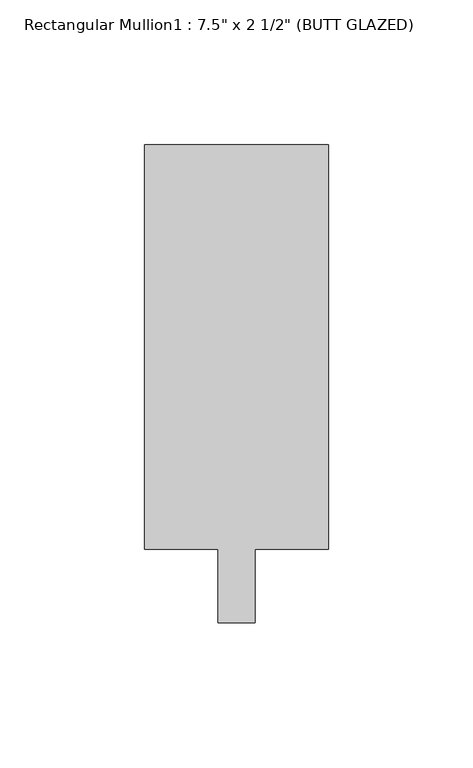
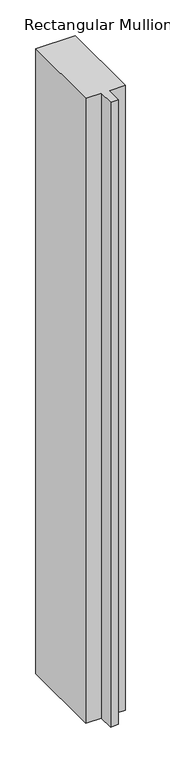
"""IFC4 building model written with IfcOpenShell, lengths in millimetres: member geometry."""

import ifcopenshell
import ifcopenshell.guid

model = None  # the IFC model being written
_history = None  # IfcOwnerHistory: only IFC2X3 demands one
_inside = {}  # id of a spatial element -> (the spatial element, [elements in it])
_under = {}  # id of a project, library or spatial element -> (it, [spatial elements below it])
_declared = {}  # id of a project -> (the project, [libraries it declares])
_typed = {}  # id of a type object -> (the type object, [elements of that type])
_made_of = {}  # id of a material, layer set ... -> (it, [elements and type objects made of it])


def new_model(schema):
    """Start an empty IFC model of exactly this schema.

    Asked for "IFC4X3", IfcOpenShell would pick the latest addendum, in which some entities
    have other attributes; the version numbers below select the first issue.
    IFC2X3 requires an IfcOwnerHistory on every rooted entity: one is made here for all.
    """
    global model, _history
    if schema == "IFC4X3":
        model = ifcopenshell.file(schema_version=(4, 3, 0, 0))
    else:
        model = ifcopenshell.file(schema=schema)
    _inside.clear()
    _under.clear()
    _declared.clear()
    _typed.clear()
    _made_of.clear()
    _history = None
    if model.schema == "IFC2X3":
        org = make("IfcOrganization", Name="unknown")
        user = make(
            "IfcPersonAndOrganization",
            ThePerson=make("IfcPerson", FamilyName="unknown"),
            TheOrganization=org,
        )
        app = make(
            "IfcApplication",
            ApplicationDeveloper=org,
            Version="unknown",
            ApplicationFullName="unknown",
            ApplicationIdentifier="unknown",
        )
        _history = make(
            "IfcOwnerHistory",
            OwningUser=user,
            OwningApplication=app,
            ChangeAction="ADDED",
            CreationDate=0,
        )
    return model


def make(cls, **values):
    """One entity of the class cls with the attributes given. An attribute that is None is left unset."""
    return model.create_entity(
        cls, **{name: value for name, value in values.items() if value is not None}
    )


def rooted(cls, **values):
    """An entity with a GlobalId (a new one), such as an element, a storey or a relation."""
    return make(cls, GlobalId=ifcopenshell.guid.new(), OwnerHistory=_history, **values)


def si_unit(unit_type, name, prefix=None):
    """IfcSIUnit, for example si_unit("LENGTHUNIT", "METRE", prefix="MILLI")."""
    return make("IfcSIUnit", UnitType=unit_type, Prefix=prefix, Name=name)


def assignment(units):
    """IfcUnitAssignment: the units of a project."""
    return None if units is None else make("IfcUnitAssignment", Units=units)


def point(xyz):
    """IfcCartesianPoint."""
    return None if xyz is None else make("IfcCartesianPoint", Coordinates=xyz)


def direction(xyz):
    """IfcDirection."""
    return None if xyz is None else make("IfcDirection", DirectionRatios=xyz)


def frame(location, z_axis=None, x_axis=None):
    """IfcAxis2Placement3D, a coordinate frame: its origin and axes. An axis left out is left unset."""
    return make(
        "IfcAxis2Placement3D",
        Location=point(location),
        Axis=direction(z_axis),
        RefDirection=direction(x_axis),
    )


def origin():
    """The frame at (0, 0, 0) with its axes left unset."""
    return frame((0.0, 0.0, 0.0))


def place(relative_to, where):
    """IfcLocalPlacement: puts the frame where relative to a parent placement (None: the world)."""
    return make(
        "IfcLocalPlacement", PlacementRelTo=relative_to, RelativePlacement=where
    )


def context(
    kind, dimensions, precision=None, world=None, true_north=None, identifier=None
):
    """IfcGeometricRepresentationContext, for example the 3D "Model" context."""
    return make(
        "IfcGeometricRepresentationContext",
        ContextIdentifier=identifier,
        ContextType=kind,
        CoordinateSpaceDimension=dimensions,
        Precision=precision,
        WorldCoordinateSystem=world,
        TrueNorth=true_north,
    )


def project(units=None, contexts=None):
    """IfcProject with its units and contexts."""
    return rooted(
        "IfcProject",
        Name="project",
        RepresentationContexts=contexts,
        UnitsInContext=assignment(units),
    )


def spatial(cls, under=None, at=None, **own):
    """A site, building, storey or space (cls), placed at a placement, below another one or the project."""
    s = rooted(cls, ObjectPlacement=at, **own)
    if under is not None:
        _under.setdefault(under.id(), (under, []))[1].append(s)
    return s


def polyline(points):
    """IfcPolyline through the points."""
    return make("IfcPolyline", Points=[point(p) for p in points])


def outline(outer, holes=None, kind="AREA"):
    """IfcArbitraryClosedProfileDef: a profile drawn as a closed curve; with holes, ...WithVoids."""
    if holes is None:
        return make("IfcArbitraryClosedProfileDef", ProfileType=kind, OuterCurve=outer)
    return make(
        "IfcArbitraryProfileDefWithVoids",
        ProfileType=kind,
        OuterCurve=outer,
        InnerCurves=holes,
    )


def extrude(swept, where, along, depth):
    """IfcExtrudedAreaSolid: the profile swept, set in the frame where, extruded along a direction by depth."""
    return make(
        "IfcExtrudedAreaSolid",
        SweptArea=swept,
        Position=where,
        ExtrudedDirection=direction(along),
        Depth=depth,
    )


def shape(context_of_items, identifier, shape_type, items):
    """IfcShapeRepresentation: the items that make up one representation, for example the "Body"."""
    return make(
        "IfcShapeRepresentation",
        ContextOfItems=context_of_items,
        RepresentationIdentifier=identifier,
        RepresentationType=shape_type,
        Items=items,
    )


def source(mapping_origin, context_of_items, identifier, shape_type, items):
    """IfcRepresentationMap: a shape defined once, which mapped items show again and again."""
    return make(
        "IfcRepresentationMap",
        MappingOrigin=mapping_origin,
        MappedRepresentation=shape(context_of_items, identifier, shape_type, items),
    )


def transform(
    local_origin,
    x_axis=None,
    y_axis=None,
    z_axis=None,
    scale=None,
    scale2=None,
    scale3=None,
    uniform=True,
):
    """IfcCartesianTransformationOperator3D, or its non-uniform kind. x_axis, y_axis, z_axis: its Axis1, 2, 3."""
    if uniform:
        return make(
            "IfcCartesianTransformationOperator3D",
            Axis1=direction(x_axis),
            Axis2=direction(y_axis),
            LocalOrigin=point(local_origin),
            Scale=scale,
            Axis3=direction(z_axis),
        )
    return make(
        "IfcCartesianTransformationOperator3DnonUniform",
        Axis1=direction(x_axis),
        Axis2=direction(y_axis),
        LocalOrigin=point(local_origin),
        Scale=scale,
        Axis3=direction(z_axis),
        Scale2=scale2,
        Scale3=scale3,
    )


def mapped(mapping_source, mapping_target):
    """IfcMappedItem: shows the shape of a source again, moved by a transform."""
    return make(
        "IfcMappedItem", MappingSource=mapping_source, MappingTarget=mapping_target
    )


def made_of(thing, what):
    """Note that an element or type object is made of a material, layer set ...; save() writes the relation."""
    if what is not None:
        _made_of.setdefault(what.id(), (what, []))[1].append(thing)
    return thing


def element(
    cls,
    number,
    at=None,
    inside=None,
    cuts=None,
    type_object=None,
    material=None,
    context=None,
    identifier="Body",
    shape_type=None,
    held_by="IfcProductDefinitionShape",
    body=None,
    shapes=None,
    **own,
):
    """One element of the class cls, such as IfcWall. Its Tag is "e" and its number.

    at: its placement. inside: the storey or other place that contains it. cuts: it is an
    opening in that element (IfcRelVoidsElement). A single representation is given by context,
    identifier, shape_type and body (its items); several are given by shapes. held_by: the class
    of the entity that holds the representations. save() writes the other relations.
    """
    e = rooted(cls, Tag="e%d" % number, ObjectPlacement=at, **own)
    if body is not None:
        shapes = [shape(context, identifier, shape_type, body)]
    if shapes is not None:
        e.Representation = make(held_by, Representations=shapes)
    if inside is not None:
        _inside.setdefault(inside.id(), (inside, []))[1].append(e)
    if cuts is not None:
        rooted(
            "IfcRelVoidsElement", RelatingBuildingElement=cuts, RelatedOpeningElement=e
        )
    if type_object is not None:
        _typed.setdefault(type_object.id(), (type_object, []))[1].append(e)
    return made_of(e, material)


def aggregate(whole, parts):
    """IfcRelAggregates: a whole, such as a stair, and the parts it consists of."""
    return rooted("IfcRelAggregates", RelatingObject=whole, RelatedObjects=parts)


def save(model, path):
    """Write the relations noted so far, then the file.

    IfcRelAggregates (storeys below a building ...), IfcRelContainedInSpatialStructure (elements
    in a storey), IfcRelDefinesByType, IfcRelAssociatesMaterial and IfcRelDeclares: one each for
    every whole, place, type object, material and project.
    """
    for whole, parts in _under.values():
        aggregate(whole, parts)
    for where, things in _inside.values():
        rooted(
            "IfcRelContainedInSpatialStructure",
            RelatedElements=things,
            RelatingStructure=where,
        )
    for kind, things in _typed.values():
        rooted("IfcRelDefinesByType", RelatedObjects=things, RelatingType=kind)
    for what, things in _made_of.values():
        rooted("IfcRelAssociatesMaterial", RelatedObjects=things, RelatingMaterial=what)
    for by, libraries in _declared.values():
        rooted("IfcRelDeclares", RelatingContext=by, RelatedDefinitions=libraries)
    model.write(path)


def member_178c744f(model_context):
    return source(origin(), model_context, "Body", "SweptSolid", [
        extrude(outline(polyline([(31.75, 165.1), (31.75, 25.4), (6.35, 25.4), (6.35, 0.0), (-6.35, 0.0), (-6.35, 25.4), (-31.75, 25.4), (-31.75, 165.1), (31.75, 165.1)])), frame((0.0, 0.0, -1066.8000021), z_axis=(0.0, 0.0, 1.0), x_axis=(1.0, 0.0, 0.0)), (0.0, 0.0, 1.0), 1066.8000021),
    ])


if __name__ == "__main__":
    model = new_model("IFC4")
    model_context = context("Model", 3, world=origin())
    ifc_project = project(units=[si_unit("LENGTHUNIT", "METRE", prefix="MILLI")], contexts=[model_context])
    site = spatial("IfcSite", under=ifc_project)
    building = spatial("IfcBuilding", under=site)
    placement = place(None, origin())
    member_shape = member_178c744f(model_context)
    element("IfcMember", 1, ObjectType="Rectangular Mullion1 : 7.5\" x 2 1/2\" (BUTT GLAZED)", at=placement, inside=building, context=model_context, shape_type="MappedRepresentation", body=[
        mapped(member_shape, transform((0.0, 0.0, 0.0), x_axis=(1.0, 0.0, 0.0), y_axis=(0.0, 1.0, 0.0), z_axis=(0.0, 0.0, 1.0))),
    ])
    save(model, "model.ifc")
